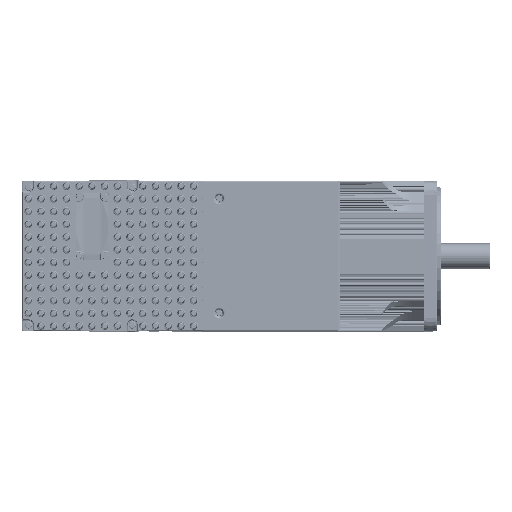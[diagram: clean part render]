
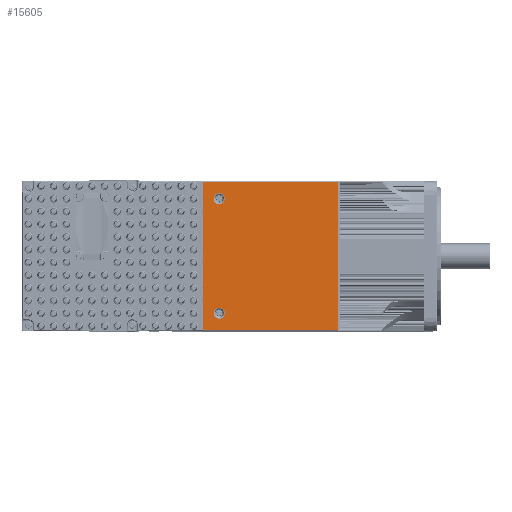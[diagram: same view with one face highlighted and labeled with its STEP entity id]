
A CAD part, top view. The second image highlights one B-rep face of the part: STEP entity #15605.
In plain terms, the highlighted planar face has unit normal (0, 0, 1).
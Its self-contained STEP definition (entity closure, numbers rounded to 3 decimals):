
#15605 = ADVANCED_FACE( 'PartBody', ( #38058, #38059, #38060 ), #38061, .T. );
#38058 = FACE_OUTER_BOUND( '', #83758, .T. );
#38059 = FACE_BOUND( '', #83759, .T. );
#38060 = FACE_BOUND( '', #83760, .T. );
#38061 = PLANE( '', #83761 );
#83758 = EDGE_LOOP( '', ( #178856, #178857, #178858, #178859 ) );
#83759 = EDGE_LOOP( '', ( #178860 ) );
#83760 = EDGE_LOOP( '', ( #178861 ) );
#83761 = AXIS2_PLACEMENT_3D( '', #178862, #178863, #178864 );
#178856 = ORIENTED_EDGE( '', *, *, #253652, .F. );
#178857 = ORIENTED_EDGE( '', *, *, #253653, .F. );
#178858 = ORIENTED_EDGE( '', *, *, #253654, .F. );
#178859 = ORIENTED_EDGE( '', *, *, #253655, .F. );
#178860 = ORIENTED_EDGE( '', *, *, #249619, .F. );
#178861 = ORIENTED_EDGE( '', *, *, #253656, .F. );
#178862 = CARTESIAN_POINT( '', ( 0., 0., 151. ) );
#178863 = DIRECTION( '', ( 0., 0., 1. ) );
#178864 = DIRECTION( '', ( 1., 0., 0. ) );
#249619 = EDGE_CURVE( '', #286097, #286097, #286098, .T. );
#253652 = EDGE_CURVE( '', #292838, #292839, #292840, .T. );
#253653 = EDGE_CURVE( '', #292747, #292838, #292841, .T. );
#253654 = EDGE_CURVE( '', #292842, #292747, #292843, .T. );
#253655 = EDGE_CURVE( '', #292839, #292842, #292844, .T. );
#253656 = EDGE_CURVE( '', #292845, #292845, #292846, .T. );
#286097 = VERTEX_POINT( '', #342844 );
#286098 = CIRCLE( '', #342845, 5.288 );
#292747 = VERTEX_POINT( '', #356877 );
#292838 = VERTEX_POINT( '', #357085 );
#292839 = VERTEX_POINT( '', #357086 );
#292840 = LINE( '', #357087, #357088 );
#292841 = LINE( '', #357089, #357090 );
#292842 = VERTEX_POINT( '', #357091 );
#292843 = LINE( '', #357092, #357093 );
#292844 = LINE( '', #357094, #357095 );
#292845 = VERTEX_POINT( '', #357096 );
#292846 = CIRCLE( '', #357097, 5.288 );
#342844 = CARTESIAN_POINT( '', ( 71.288, -54., 151. ) );
#342845 = AXIS2_PLACEMENT_3D( '', #426884, #426885, #426886 );
#356877 = CARTESIAN_POINT( '', ( 178.5, -69.5, 151. ) );
#357085 = CARTESIAN_POINT( '', ( 51., -69.5, 151. ) );
#357086 = CARTESIAN_POINT( '', ( 51., 69.5, 151. ) );
#357087 = CARTESIAN_POINT( '', ( 51., 0., 151. ) );
#357088 = VECTOR( '', #431674, 1000. );
#357089 = CARTESIAN_POINT( '', ( 114.75, -69.5, 151. ) );
#357090 = VECTOR( '', #431675, 1000. );
#357091 = CARTESIAN_POINT( '', ( 178.5, 69.5, 151. ) );
#357092 = CARTESIAN_POINT( '', ( 178.5, 0., 151. ) );
#357093 = VECTOR( '', #431676, 1000. );
#357094 = CARTESIAN_POINT( '', ( 114.75, 69.5, 151. ) );
#357095 = VECTOR( '', #431677, 1000. );
#357096 = CARTESIAN_POINT( '', ( 71.288, 54., 151. ) );
#357097 = AXIS2_PLACEMENT_3D( '', #431678, #431679, #431680 );
#426884 = CARTESIAN_POINT( '', ( 66., -54., 151. ) );
#426885 = DIRECTION( '', ( 0., 0., 1. ) );
#426886 = DIRECTION( '', ( 1., 0., 0. ) );
#431674 = DIRECTION( '', ( 0., 1., 0. ) );
#431675 = DIRECTION( '', ( -1., 0., 0. ) );
#431676 = DIRECTION( '', ( 0., -1., 0. ) );
#431677 = DIRECTION( '', ( 1., 0., 0. ) );
#431678 = CARTESIAN_POINT( '', ( 66., 54., 151. ) );
#431679 = DIRECTION( '', ( 0., 0., 1. ) );
#431680 = DIRECTION( '', ( 1., 0., 0. ) );
